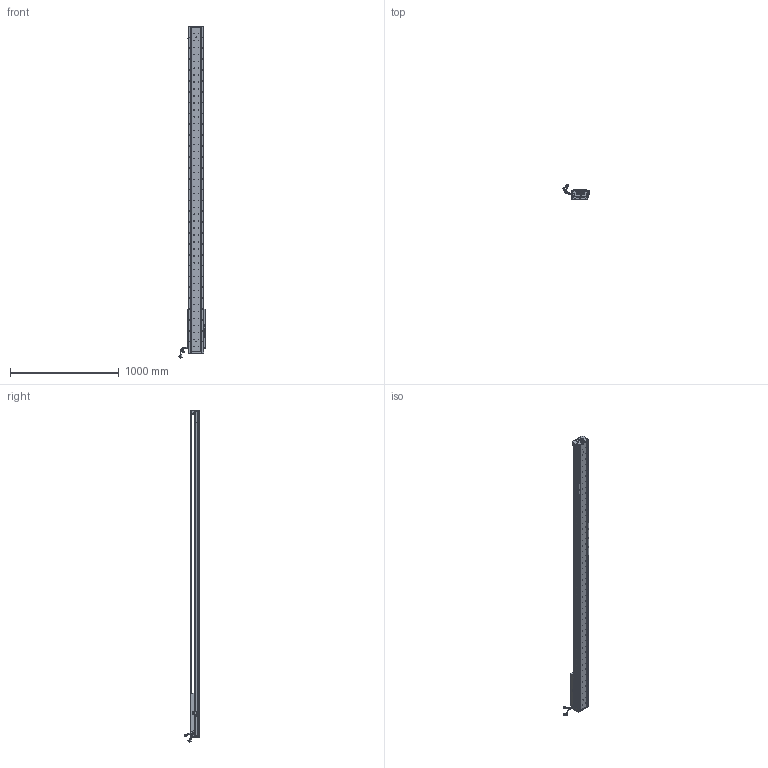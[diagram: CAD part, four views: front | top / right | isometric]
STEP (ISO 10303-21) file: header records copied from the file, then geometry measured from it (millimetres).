
FILE_DESCRIPTION (( 'STEP AP203' ), '1' );
FILE_NAME ('Z5-RY140D-1-L500-B-K.SLDASM_2550.step', '2021-05-17T08:40:38', ( '盈信电脑' ), ( '东莞市道滘镇水果街19号' ), 'SwSTEP 2.0', 'SolidWorks 2016', '' );
FILE_SCHEMA (( 'CONFIG_CONTROL_DESIGN' ));
Length unit declared in the file: millimetre
Products named in the file (36): SCREW-M1.6-1; 覜茼ん672; HARNESS; HARNESS-Part-2; SCREW-M1.7; 榋妏寠巭燃_暯_M2_2; SCALE; SEAL-Part-1; 140雄赽晤鎢ん堤盄; Z-140詩湍傷裔啣; Z-RY140感应器672光电感应片; SCALE-Part-1; Z5-RY140D-1-L500-B-K.SLDASM_2550; HARNESS-Part-1; LABEL; SHIELDPLATE; Z5-RY140圉猾敕臏賑輸(21遴); Z5-RY140-L500直线电机模组底座_2550; 080黍杅芛假蚾釱21遴; SCREW-M1.6; COVER-Part-1; SCREW-M1.6-3; 140-Z-臏賑輸盄裔(21遴); SCALE-Part-2; SCREW-M1.7-1; 詩湍奻揤裔; 詩湍狟揤裔; SEAL; HOLDER0; PSLH080_PSLF2; 140蚥薯蝶輸; PBU_SHEET; COVER; SCREW-M1.6-2; Z5-RY140-L500詩湍100mm遵_2550; LABEL-Part-1
Assembly tree (41 placements, depth 4):
  Z5-RY140D-1-L500-B-K.SLDASM_2550
    Z5-RY140-L500直线电机模组底座_2550
    Z-RY140感应器672光电感应片
    Z5-RY140圉猾敕臏賑輸(21遴)
    覜茼ん672  x3
    Z5-RY140-L500詩湍100mm遵_2550
    PSLH080_PSLF2
      SCALE
        SCALE-Part-1
        SCALE-Part-2
      HARNESS
        HARNESS-Part-1
        HARNESS-Part-2
      LABEL
        LABEL-Part-1
      COVER
        COVER-Part-1
      SEAL
        SEAL-Part-1
      榋妏寠巭燃_暯_M2_2
      SHIELDPLATE
      SCREW-M1.7
      SCREW-M1.7-1
      PBU_SHEET
      SCREW-M1.6
      SCREW-M1.6-1
      SCREW-M1.6-2
      SCREW-M1.6-3
      HOLDER0
    080黍杅芛假蚾釱21遴
    140-Z-臏賑輸盄裔(21遴)
    Z-140詩湍傷裔啣  x2
    詩湍狟揤裔  x2
    詩湍奻揤裔  x2
    140蚥薯蝶輸  x2
    140雄赽晤鎢ん堤盄
Bounding box: 239.79 x 143.88 x 3055.87 mm (x, y, z)
Volume: 10042886.3 mm3; surface area: 2577927.7 mm2
Topology: 36 solids, 36 shells, 4420 faces, 12064 edges, 7643 vertices
Faces by surface type: cylinder 2446, plane 1422, cone 430, torus 69, bspline 53
Entity records: 141616 total; most frequent: CARTESIAN_POINT 40247, ORIENTED_EDGE 20992, DIRECTION 19384, EDGE_CURVE 10496, AXIS2_PLACEMENT_3D 7244, VERTEX_POINT 6811, VECTOR 4896, LINE 4896
